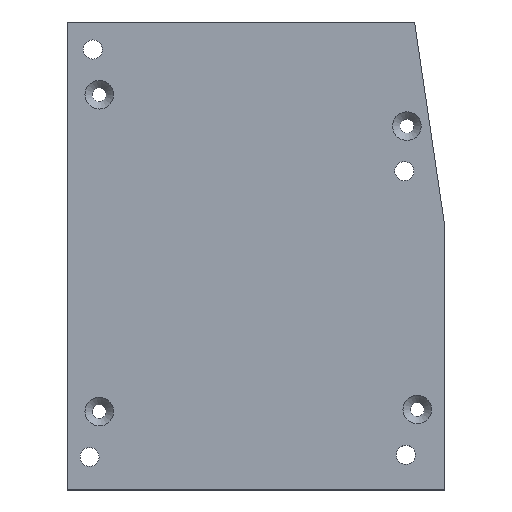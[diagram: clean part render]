
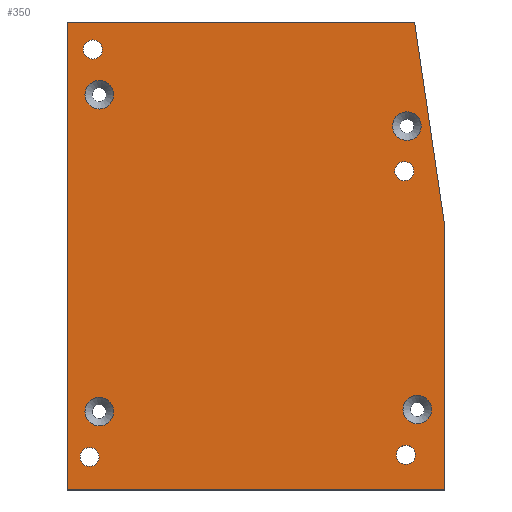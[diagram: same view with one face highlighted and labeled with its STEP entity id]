
A CAD part, top view. The second image highlights one B-rep face of the part: STEP entity #350.
In plain terms, the highlighted planar face has unit normal (0, 0, 1).
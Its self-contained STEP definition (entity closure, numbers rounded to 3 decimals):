
#23=FACE_BOUND('',#67,.T.);
#24=FACE_BOUND('',#68,.T.);
#25=FACE_BOUND('',#69,.T.);
#26=FACE_BOUND('',#70,.T.);
#27=FACE_BOUND('',#71,.T.);
#28=FACE_BOUND('',#72,.T.);
#29=FACE_BOUND('',#73,.T.);
#30=FACE_BOUND('',#74,.T.);
#39=PLANE('',#373);
#47=FACE_OUTER_BOUND('',#66,.T.);
#66=EDGE_LOOP('',(#255,#256,#257,#258,#259));
#67=EDGE_LOOP('',(#260));
#68=EDGE_LOOP('',(#261));
#69=EDGE_LOOP('',(#262));
#70=EDGE_LOOP('',(#263));
#71=EDGE_LOOP('',(#264));
#72=EDGE_LOOP('',(#265));
#73=EDGE_LOOP('',(#266));
#74=EDGE_LOOP('',(#267));
#101=LINE('',#526,#128);
#102=LINE('',#528,#129);
#103=LINE('',#530,#130);
#104=LINE('',#532,#131);
#105=LINE('',#533,#132);
#128=VECTOR('',#420,10.);
#129=VECTOR('',#421,10.);
#130=VECTOR('',#422,10.);
#131=VECTOR('',#423,10.);
#132=VECTOR('',#424,10.);
#154=CIRCLE('',#371,3.15);
#156=CIRCLE('',#374,3.15);
#157=CIRCLE('',#375,3.15);
#158=CIRCLE('',#376,2.1);
#159=CIRCLE('',#377,2.1);
#160=CIRCLE('',#378,2.1);
#161=CIRCLE('',#379,2.1);
#162=CIRCLE('',#380,3.15);
#174=VERTEX_POINT('',#518);
#176=VERTEX_POINT('',#524);
#177=VERTEX_POINT('',#525);
#178=VERTEX_POINT('',#527);
#179=VERTEX_POINT('',#529);
#180=VERTEX_POINT('',#531);
#181=VERTEX_POINT('',#534);
#182=VERTEX_POINT('',#536);
#183=VERTEX_POINT('',#538);
#184=VERTEX_POINT('',#540);
#185=VERTEX_POINT('',#542);
#186=VERTEX_POINT('',#544);
#187=VERTEX_POINT('',#546);
#204=EDGE_CURVE('',#174,#174,#154,.T.);
#207=EDGE_CURVE('',#176,#177,#101,.T.);
#208=EDGE_CURVE('',#177,#178,#102,.F.);
#209=EDGE_CURVE('',#178,#179,#103,.T.);
#210=EDGE_CURVE('',#179,#180,#104,.T.);
#211=EDGE_CURVE('',#180,#176,#105,.F.);
#212=EDGE_CURVE('',#181,#181,#156,.T.);
#213=EDGE_CURVE('',#182,#182,#157,.T.);
#214=EDGE_CURVE('',#183,#183,#158,.T.);
#215=EDGE_CURVE('',#184,#184,#159,.T.);
#216=EDGE_CURVE('',#185,#185,#160,.T.);
#217=EDGE_CURVE('',#186,#186,#161,.T.);
#218=EDGE_CURVE('',#187,#187,#162,.T.);
#255=ORIENTED_EDGE('',*,*,#207,.T.);
#256=ORIENTED_EDGE('',*,*,#208,.T.);
#257=ORIENTED_EDGE('',*,*,#209,.T.);
#258=ORIENTED_EDGE('',*,*,#210,.T.);
#259=ORIENTED_EDGE('',*,*,#211,.T.);
#260=ORIENTED_EDGE('',*,*,#212,.F.);
#261=ORIENTED_EDGE('',*,*,#213,.F.);
#262=ORIENTED_EDGE('',*,*,#214,.T.);
#263=ORIENTED_EDGE('',*,*,#215,.T.);
#264=ORIENTED_EDGE('',*,*,#216,.T.);
#265=ORIENTED_EDGE('',*,*,#217,.T.);
#266=ORIENTED_EDGE('',*,*,#218,.F.);
#267=ORIENTED_EDGE('',*,*,#204,.F.);
#350=ADVANCED_FACE('',(#47,#23,#24,#25,#26,#27,#28,#29,#30),#39,.T.);
#371=AXIS2_PLACEMENT_3D('',#519,#413,#414);
#373=AXIS2_PLACEMENT_3D('',#523,#418,#419);
#374=AXIS2_PLACEMENT_3D('',#535,#425,#426);
#375=AXIS2_PLACEMENT_3D('',#537,#427,#428);
#376=AXIS2_PLACEMENT_3D('',#539,#429,#430);
#377=AXIS2_PLACEMENT_3D('',#541,#431,#432);
#378=AXIS2_PLACEMENT_3D('',#543,#433,#434);
#379=AXIS2_PLACEMENT_3D('',#545,#435,#436);
#380=AXIS2_PLACEMENT_3D('',#547,#437,#438);
#413=DIRECTION('center_axis',(0.,0.,1.));
#414=DIRECTION('ref_axis',(-1.,0.,0.));
#418=DIRECTION('center_axis',(0.,0.,1.));
#419=DIRECTION('ref_axis',(-1.,0.,0.));
#420=DIRECTION('',(-0.146,0.989,0.));
#421=DIRECTION('',(1.,0.,0.));
#422=DIRECTION('',(0.,-1.,0.));
#423=DIRECTION('',(1.,0.,0.));
#424=DIRECTION('',(0.,-1.,0.));
#425=DIRECTION('center_axis',(0.,0.,1.));
#426=DIRECTION('ref_axis',(-1.,0.,0.));
#427=DIRECTION('center_axis',(0.,0.,1.));
#428=DIRECTION('ref_axis',(-1.,0.,0.));
#429=DIRECTION('center_axis',(0.,0.,-1.));
#430=DIRECTION('ref_axis',(-1.,0.,0.));
#431=DIRECTION('center_axis',(0.,0.,-1.));
#432=DIRECTION('ref_axis',(-1.,0.,0.));
#433=DIRECTION('center_axis',(0.,0.,-1.));
#434=DIRECTION('ref_axis',(-1.,0.,0.));
#435=DIRECTION('center_axis',(0.,0.,-1.));
#436=DIRECTION('ref_axis',(-1.,0.,0.));
#437=DIRECTION('center_axis',(0.,0.,1.));
#438=DIRECTION('ref_axis',(-1.,0.,0.));
#518=CARTESIAN_POINT('',(12.15,50.257,32.7));
#519=CARTESIAN_POINT('Origin',(9.,50.257,32.7));
#523=CARTESIAN_POINT('Origin',(46.,94.5,32.7));
#524=CARTESIAN_POINT('',(85.,91.353,32.7));
#525=CARTESIAN_POINT('',(78.401,136.,32.7));
#526=CARTESIAN_POINT('',(81.056,118.037,32.7));
#527=CARTESIAN_POINT('',(2.,136.,32.7));
#528=CARTESIAN_POINT('',(61.647,136.,32.7));
#529=CARTESIAN_POINT('',(2.,33.,32.7));
#530=CARTESIAN_POINT('',(2.,33.,32.7));
#531=CARTESIAN_POINT('',(85.,33.,32.7));
#532=CARTESIAN_POINT('',(90.,33.,32.7));
#533=CARTESIAN_POINT('',(85.,63.75,32.7));
#534=CARTESIAN_POINT('',(12.15,120.,32.7));
#535=CARTESIAN_POINT('Origin',(9.,120.,32.7));
#536=CARTESIAN_POINT('',(82.15,50.709,32.7));
#537=CARTESIAN_POINT('Origin',(79.,50.709,32.7));
#538=CARTESIAN_POINT('',(78.248,103.191,32.7));
#539=CARTESIAN_POINT('Origin',(76.148,103.191,32.7));
#540=CARTESIAN_POINT('',(9.699,129.944,32.7));
#541=CARTESIAN_POINT('Origin',(7.599,129.944,32.7));
#542=CARTESIAN_POINT('',(8.976,40.257,32.7));
#543=CARTESIAN_POINT('Origin',(6.876,40.257,32.7));
#544=CARTESIAN_POINT('',(78.576,40.709,32.7));
#545=CARTESIAN_POINT('Origin',(76.476,40.709,32.7));
#546=CARTESIAN_POINT('',(79.863,113.082,32.7));
#547=CARTESIAN_POINT('Origin',(76.713,113.082,32.7));
